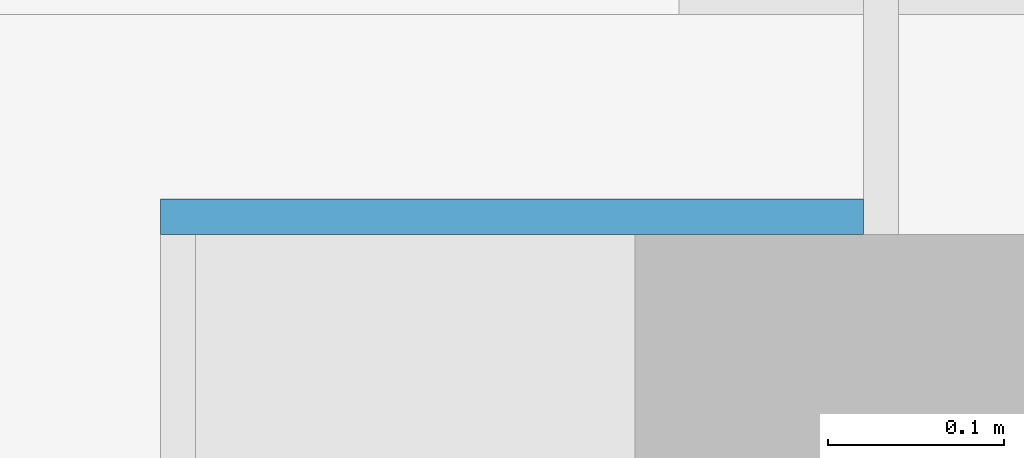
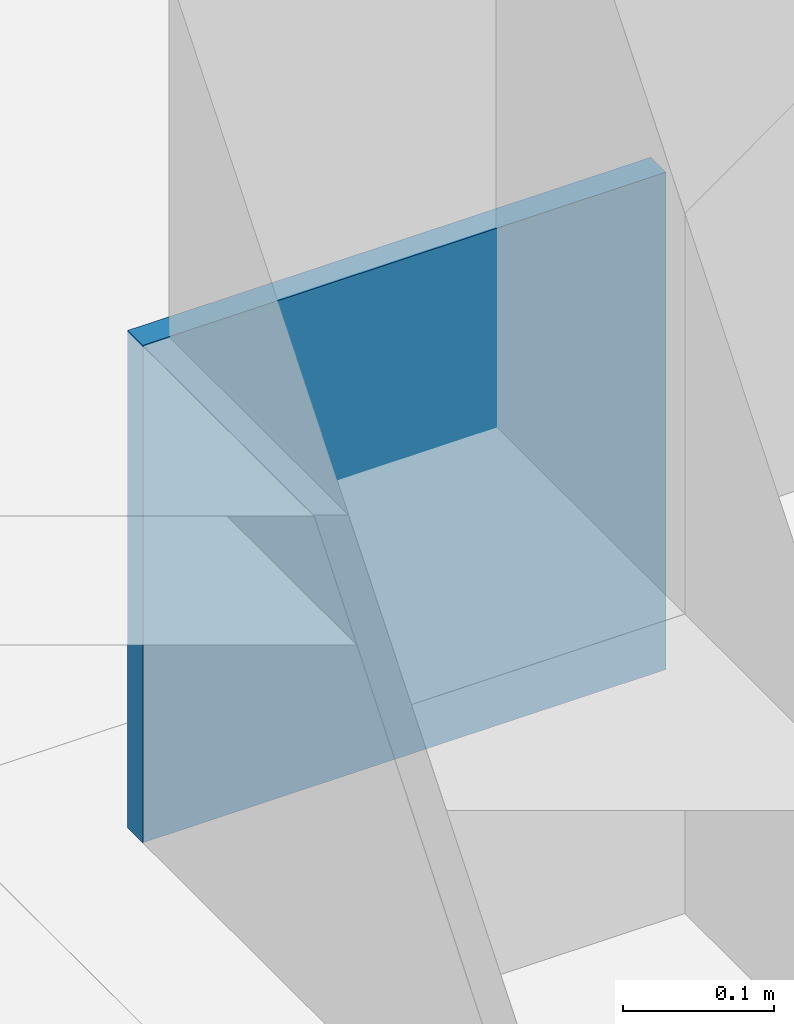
# One storey, part 50 of 60: 1 wall.
"""IFC2X3 building model written with IfcOpenShell, lengths in millimetres."""

from ifc_helpers import new_model, entity, si_unit, converted_unit, derived_unit, direction, frame, frame_2d, origin, place, context, subcontext, project, spatial, rectangle, extrude, material, layer, layer_set, layer_usage, type_object, element, save


model = new_model("IFC2X3")

# Units and contexts
model_context = context("Model", 3, precision=0.01, world=origin(), true_north=direction((6.12303176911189e-17, 1.0)))
body_context = subcontext(model_context, "Body", "Model", "MODEL_VIEW")
ifc_project = project(units=[si_unit("LENGTHUNIT", "METRE", prefix="MILLI"), si_unit("AREAUNIT", "SQUARE_METRE"), si_unit("VOLUMEUNIT", "CUBIC_METRE"), converted_unit("PLANEANGLEUNIT", "DEGREE", entity("IfcRatioMeasure", 0.0174532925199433), si_unit("PLANEANGLEUNIT", "RADIAN"), dimensions=[0, 0, 0, 0, 0, 0, 0]), si_unit("MASSUNIT", "GRAM", prefix="KILO"), derived_unit("MASSDENSITYUNIT", [(si_unit("MASSUNIT", "GRAM", prefix="KILO"), 1), (si_unit("LENGTHUNIT", "METRE"), -3)]), si_unit("TIMEUNIT", "SECOND"), si_unit("FREQUENCYUNIT", "HERTZ"), si_unit("THERMODYNAMICTEMPERATUREUNIT", "DEGREE_CELSIUS"), derived_unit("THERMALTRANSMITTANCEUNIT", [(si_unit("MASSUNIT", "GRAM", prefix="KILO"), 1), (si_unit("THERMODYNAMICTEMPERATUREUNIT", "KELVIN"), -1), (si_unit("TIMEUNIT", "SECOND"), -3)]), derived_unit("VOLUMETRICFLOWRATEUNIT", [(si_unit("LENGTHUNIT", "METRE"), 3), (si_unit("TIMEUNIT", "SECOND"), -1)]), si_unit("ELECTRICCURRENTUNIT", "AMPERE"), si_unit("ELECTRICVOLTAGEUNIT", "VOLT"), si_unit("POWERUNIT", "WATT"), si_unit("FORCEUNIT", "NEWTON", prefix="KILO"), si_unit("ILLUMINANCEUNIT", "LUX"), si_unit("LUMINOUSFLUXUNIT", "LUMEN"), si_unit("LUMINOUSINTENSITYUNIT", "CANDELA"), derived_unit("USERDEFINED", [(si_unit("MASSUNIT", "GRAM", prefix="KILO"), -1), (si_unit("LENGTHUNIT", "METRE"), -2), (si_unit("TIMEUNIT", "SECOND"), 3), (si_unit("LUMINOUSFLUXUNIT", "LUMEN"), 1)]), derived_unit("LINEARVELOCITYUNIT", [(si_unit("LENGTHUNIT", "METRE"), 1), (si_unit("TIMEUNIT", "SECOND"), -1)]), si_unit("PRESSUREUNIT", "PASCAL"), derived_unit("USERDEFINED", [(si_unit("LENGTHUNIT", "METRE"), -2), (si_unit("MASSUNIT", "GRAM", prefix="KILO"), 1), (si_unit("TIMEUNIT", "SECOND"), -2)])], contexts=[model_context])

# Site, building, storey
site_placement = place(None, origin())
site = spatial("IfcSite", under=ifc_project, at=site_placement, Name="Default", CompositionType="ELEMENT")
building_placement = place(site_placement, origin())
building = spatial("IfcBuilding", under=site, at=building_placement, Name="niet gebruiken", CompositionType="ELEMENT")
storey_placement = place(building_placement, origin())
storey = spatial("IfcBuildingStorey", under=building, at=storey_placement, Name="00 begane grond", CompositionType="ELEMENT", Elevation=0.0)

# Wall
ifc_material = material(Name="NLRS_n7_isolatie EPS")
ifc_layer = layer(ifc_material, 20.0)
ifc_layer_set = layer_set([ifc_layer], Name="Basic Wall:NLRS_21.12_WA_isolatie EPS platen d=20_gen")
ifc_layer_usage = layer_usage(ifc_layer_set, "AXIS2", "NEGATIVE", 10.0)
wall_type = type_object("IfcWallType", Name="Basic Wall:NLRS_21.12_WA_isolatie EPS platen d=20_gen", PredefinedType="STANDARD", material=ifc_layer_set)
wall_placement = place(storey_placement, frame((2930.0, 2670.0, -402.0), z_axis=(0.0, 0.0, 1.0), x_axis=(-1.0, 0.0, 0.0)))
element("IfcWallStandardCase", 1, at=wall_placement, inside=storey, type_object=wall_type, material=ifc_layer_usage, Name="Basic Wall:NLRS_21.12_WA_isolatie EPS platen d=20_gen", ObjectType="Basic Wall:NLRS_21.12_WA_isolatie EPS platen d=20_gen", context=body_context, shape_type="SweptSolid", body=[
    extrude(rectangle(XDim=399.999999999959, YDim=19.9999999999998, at=frame_2d((199.99999999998, -2.30926389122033e-14), x_axis=(-1.0, 0.0))), origin(), (0.0, 0.0, 1.0), 402.0),
])

save(model, "model.ifc")
